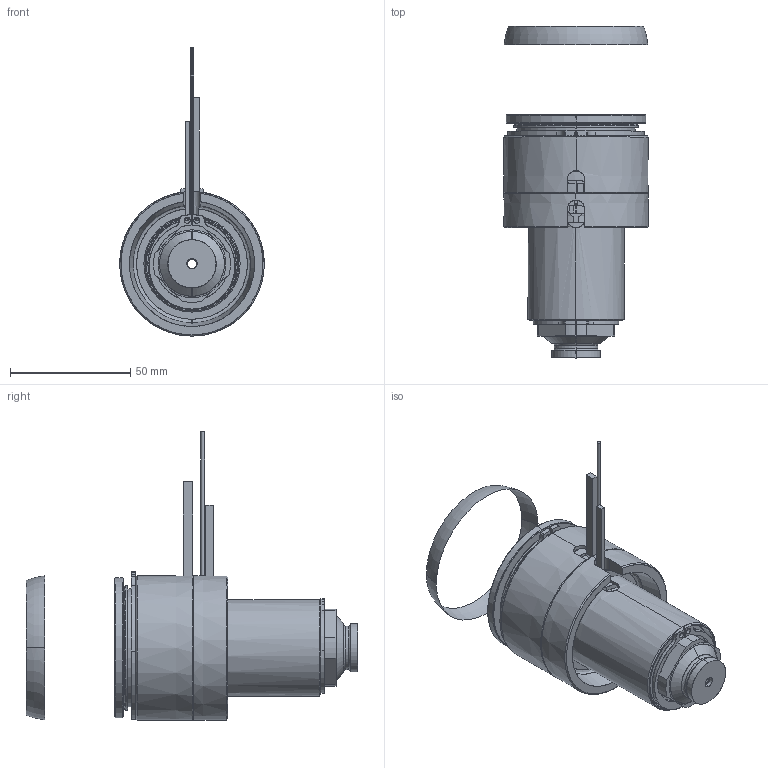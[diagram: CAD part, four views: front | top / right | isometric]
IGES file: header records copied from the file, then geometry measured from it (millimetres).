
Start section: SolidWorks IGES file using analytic representation for surfaces
Global section: file name: C:\Documents and Settings\ws-20\Desktop\TEM\UGER6602-S-A-0 [Øb-3.9 P-0 ØC-15].IGS; native system: SolidWorks 2012; preprocessor: SolidWorks 2012; author: ws-20; date: 120417.115556; units: millimetre
Bounding box: 60 x 137.77 x 119.65 mm (x, y, z)
Surface area: 59952.2 mm2 (no closed solid volume)
Topology: 0 solids, 0 shells, 168 faces, 3378 edges, 3378 vertices
Faces by surface type: revolution 102, bspline 66
